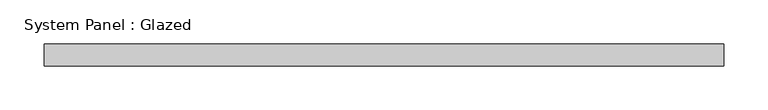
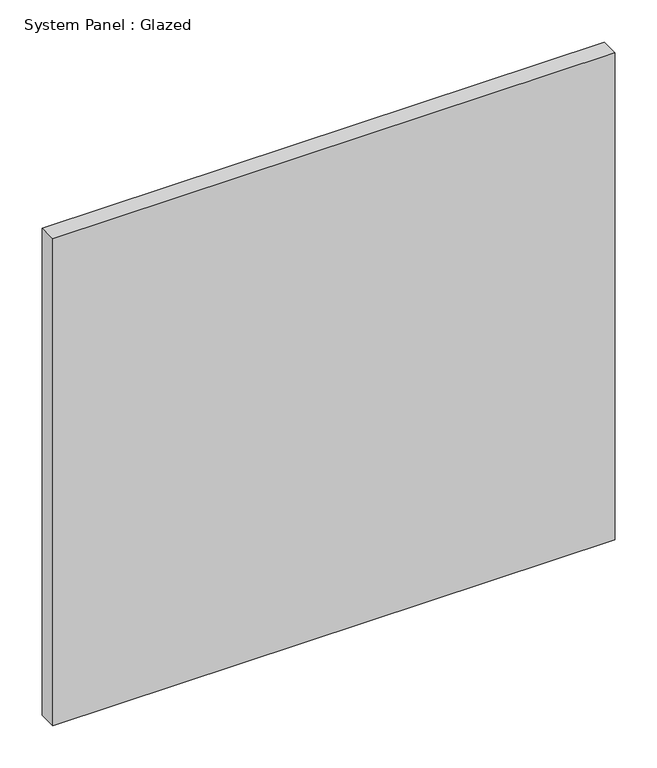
"""IFC4 building model written with IfcOpenShell, lengths in millimetres: plate geometry, System Panel : Glazed."""

from ifc_helpers import new_model, si_unit, origin, origin_with_axes, place, context, project, spatial, polyline, outline, extrude, source, transform, mapped, element, save


def system_panel_glazed_4936f0a6(model_context):
    return source(origin(), model_context, "Body", "SweptSolid", [
        extrude(outline(polyline([(385.0180834, -72.5), (-385.0180834, -72.5), (-385.0180834, -47.5), (385.0180834, -47.5), (385.0180834, -72.5)])), origin_with_axes(), (0.0, 0.0, 1.0), 705.0),
    ])


if __name__ == "__main__":
    model = new_model("IFC4")
    model_context = context("Model", 3, world=origin())
    ifc_project = project(units=[si_unit("LENGTHUNIT", "METRE", prefix="MILLI")], contexts=[model_context])
    site = spatial("IfcSite", under=ifc_project)
    building = spatial("IfcBuilding", under=site)
    placement = place(None, origin())
    system_panel_glazed_shape = system_panel_glazed_4936f0a6(model_context)
    element("IfcPlate", 1, ObjectType="System Panel : Glazed", at=placement, inside=building, context=model_context, shape_type="MappedRepresentation", body=[
        mapped(system_panel_glazed_shape, transform((0.0, 0.0, 0.0), x_axis=(1.0, 0.0, 0.0), y_axis=(0.0, 1.0, 0.0), z_axis=(0.0, 0.0, 1.0))),
    ])
    save(model, "model.ifc")
